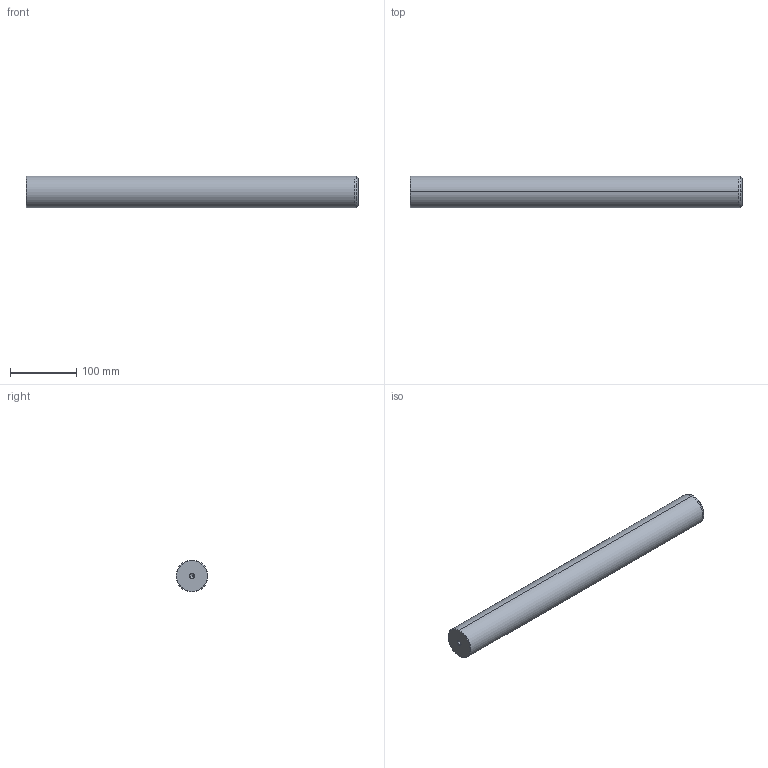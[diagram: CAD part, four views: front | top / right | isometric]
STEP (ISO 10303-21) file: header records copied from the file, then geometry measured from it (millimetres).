
FILE_DESCRIPTION(('CATIA V5 STEP Exchange'),'2;1');
FILE_NAME('C:\Users\Utente\Desktop\IO LAVORO\3D X SITO CF\X SITO\720\720-48x500.stp','2020-12-30T21:44:59+00:00',('none'),('none'),'CATIA Version 5 Release 20 GA (IN-10)','CATIA V5 STEP AP203','none');
FILE_SCHEMA(('CONFIG_CONTROL_DESIGN'));
Length unit declared in the file: millimetre
Products named in the file (1): 720-48x500
Bounding box: 500 x 48 x 48 mm (x, y, z)
Volume: 902268.1 mm3; surface area: 79625.7 mm2
Topology: 1 solids, 1 shells, 22 faces, 62 edges, 40 vertices
Faces by surface type: cone 12, cylinder 6, plane 2, torus 2
Entity records: 806 total; most frequent: CARTESIAN_POINT 229, ORIENTED_EDGE 116, DIRECTION 93, EDGE_CURVE 58, AXIS2_PLACEMENT_3D 54, VERTEX_POINT 40, CIRCLE 31, EDGE_LOOP 24
